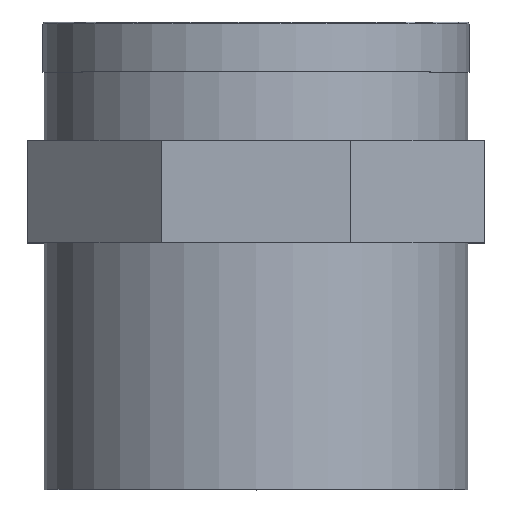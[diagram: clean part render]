
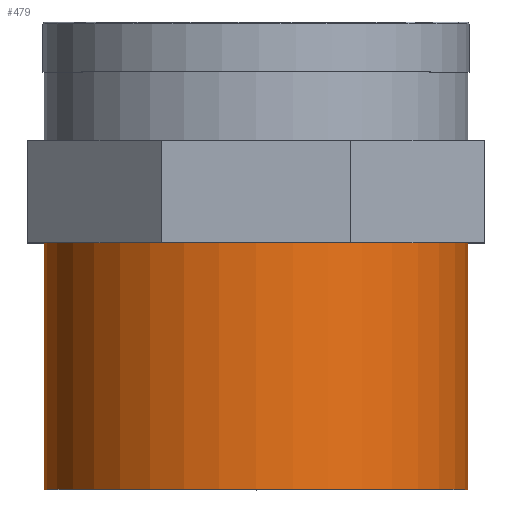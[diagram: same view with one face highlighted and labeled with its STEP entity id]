
A CAD part, top view. The second image highlights one B-rep face of the part: STEP entity #479.
In plain terms, the highlighted cylindrical face has radius 25.5 mm (diameter 51 mm), a full revolution.
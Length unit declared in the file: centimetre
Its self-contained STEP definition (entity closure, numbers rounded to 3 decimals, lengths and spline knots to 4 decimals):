
#90=CYLINDRICAL_SURFACE('',#523,2.55);
#105=FACE_BOUND('',#178,.T.);
#134=FACE_OUTER_BOUND('',#177,.T.);
#177=EDGE_LOOP('',(#393));
#178=EDGE_LOOP('',(#394));
#191=CIRCLE('',#508,2.55);
#198=CIRCLE('',#522,2.55);
#232=VERTEX_POINT('',#4125);
#238=VERTEX_POINT('',#4145);
#286=EDGE_CURVE('',#232,#232,#191,.T.);
#293=EDGE_CURVE('',#238,#238,#198,.T.);
#393=ORIENTED_EDGE('',*,*,#286,.T.);
#394=ORIENTED_EDGE('',*,*,#293,.T.);
#479=ADVANCED_FACE('',(#134,#105),#90,.T.);
#508=AXIS2_PLACEMENT_3D('',#4126,#603,#604);
#522=AXIS2_PLACEMENT_3D('',#4146,#631,#632);
#523=AXIS2_PLACEMENT_3D('',#4147,#633,#634);
#603=DIRECTION('center_axis',(0.,-1.,0.));
#604=DIRECTION('ref_axis',(-1.,0.,0.));
#631=DIRECTION('center_axis',(0.,1.,0.));
#632=DIRECTION('ref_axis',(1.,0.,0.));
#633=DIRECTION('center_axis',(0.,1.,0.));
#634=DIRECTION('ref_axis',(-1.,0.,0.));
#4125=CARTESIAN_POINT('',(2.55,-2.4097,0.));
#4126=CARTESIAN_POINT('Origin',(0.,-2.4097,0.));
#4145=CARTESIAN_POINT('',(-2.55,-5.3797,0.));
#4146=CARTESIAN_POINT('Origin',(0.,-5.3797,0.));
#4147=CARTESIAN_POINT('Origin',(0.,-2.5797,0.));
